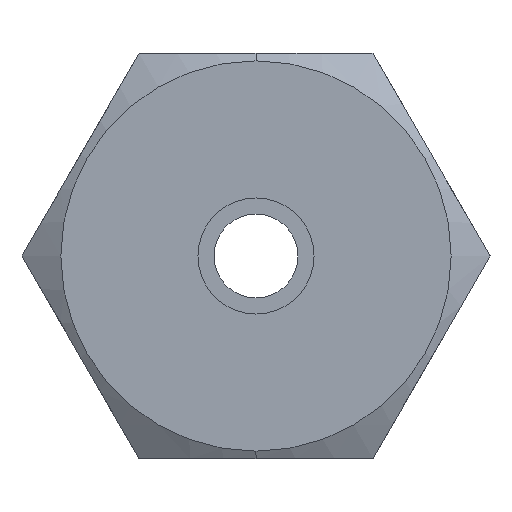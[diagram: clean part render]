
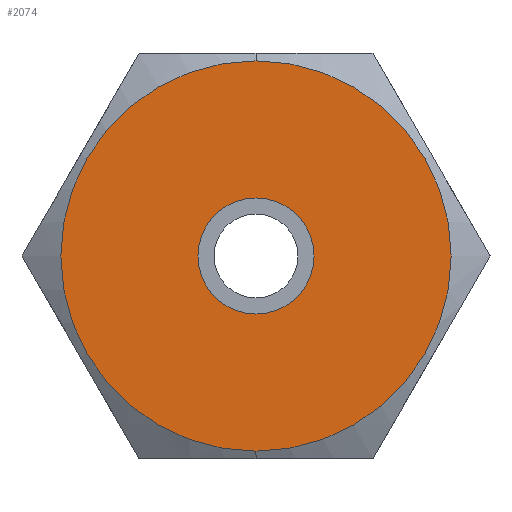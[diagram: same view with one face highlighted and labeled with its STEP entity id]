
A CAD part, left-side view. The second image highlights one B-rep face of the part: STEP entity #2074.
In plain terms, the highlighted planar face has unit normal (-1, 0, 0).
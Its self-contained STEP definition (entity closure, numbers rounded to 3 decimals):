
#31 = CARTESIAN_POINT ( 'NONE',  ( -15.4, 0., 1.59 ) ) ;
#32 = DIRECTION ( 'NONE',  ( 0., 0., 1. ) ) ;
#33 = DIRECTION ( 'NONE',  ( -1., 0., 0. ) ) ;
#34 = CARTESIAN_POINT ( 'NONE',  ( -15.4, 0., 0. ) ) ;
#35 = AXIS2_PLACEMENT_3D ( 'NONE', #34, #33, #32 ) ;
#47 = CIRCLE ( 'NONE', #35, 1.59 ) ;
#167 = CARTESIAN_POINT ( 'NONE',  ( -15.4, 0., -1.59 ) ) ;
#472 = CARTESIAN_POINT ( 'NONE',  ( -15.4, 0., 5.35 ) ) ;
#473 = DIRECTION ( 'NONE',  ( 0., 0., 1. ) ) ;
#474 = DIRECTION ( 'NONE',  ( -1., 0., 0. ) ) ;
#475 = AXIS2_PLACEMENT_3D ( 'NONE', #489, #474, #473 ) ;
#476 = CIRCLE ( 'NONE', #475, 5.35 ) ;
#489 = CARTESIAN_POINT ( 'NONE',  ( -15.4, 0., 0. ) ) ;
#490 = CARTESIAN_POINT ( 'NONE',  ( -15.4, 0., -5.35 ) ) ;
#1135 = DIRECTION ( 'NONE',  ( 0., 0., 1. ) ) ;
#1136 = DIRECTION ( 'NONE',  ( -1., 0., 0. ) ) ;
#1137 = CARTESIAN_POINT ( 'NONE',  ( -15.4, 0., 0. ) ) ;
#1138 = AXIS2_PLACEMENT_3D ( 'NONE', #1137, #1136, #1135 ) ;
#1139 = CIRCLE ( 'NONE', #1138, 5.35 ) ;
#1140 = DIRECTION ( 'NONE',  ( 0., 0., 1. ) ) ;
#1141 = DIRECTION ( 'NONE',  ( -1., 0., 0. ) ) ;
#1142 = AXIS2_PLACEMENT_3D ( 'NONE', #1147, #1141, #1140 ) ;
#1143 = CIRCLE ( 'NONE', #1142, 1.59 ) ;
#1144 = DIRECTION ( 'NONE',  ( 0., 0., 1. ) ) ;
#1145 = DIRECTION ( 'NONE',  ( -1., 0., 0. ) ) ;
#1146 = AXIS2_PLACEMENT_3D ( 'NONE', #1148, #1145, #1144 ) ;
#1147 = CARTESIAN_POINT ( 'NONE',  ( -15.4, 0., 0. ) ) ;
#1148 = CARTESIAN_POINT ( 'NONE',  ( -15.4, 6.414, 0. ) ) ;
#1149 = PLANE ( 'NONE',  #1146 ) ;
#1150 = FACE_OUTER_BOUND ( 'NONE', #2079, .T. ) ;
#1151 = FACE_BOUND ( 'NONE', #2075, .T. ) ;
#1630 = VERTEX_POINT ( 'NONE', #167 ) ;
#1632 = EDGE_CURVE ( 'NONE', #1630, #1633, #47, .T. ) ;
#1633 = VERTEX_POINT ( 'NONE', #31 ) ;
#1816 = VERTEX_POINT ( 'NONE', #490 ) ;
#1818 = EDGE_CURVE ( 'NONE', #1819, #1816, #476, .T. ) ;
#1819 = VERTEX_POINT ( 'NONE', #472 ) ;
#2074 = ADVANCED_FACE ( 'NONE', ( #1151, #1150 ), #1149, .T. ) ;
#2075 = EDGE_LOOP ( 'NONE', ( #2076, #2078 ) ) ;
#2076 = ORIENTED_EDGE ( 'NONE', *, *, #2077, .F. ) ;
#2077 = EDGE_CURVE ( 'NONE', #1633, #1630, #1143, .T. ) ;
#2078 = ORIENTED_EDGE ( 'NONE', *, *, #1632, .F. ) ;
#2079 = EDGE_LOOP ( 'NONE', ( #2080, #2081 ) ) ;
#2080 = ORIENTED_EDGE ( 'NONE', *, *, #1818, .T. ) ;
#2081 = ORIENTED_EDGE ( 'NONE', *, *, #2082, .T. ) ;
#2082 = EDGE_CURVE ( 'NONE', #1816, #1819, #1139, .T. ) ;
